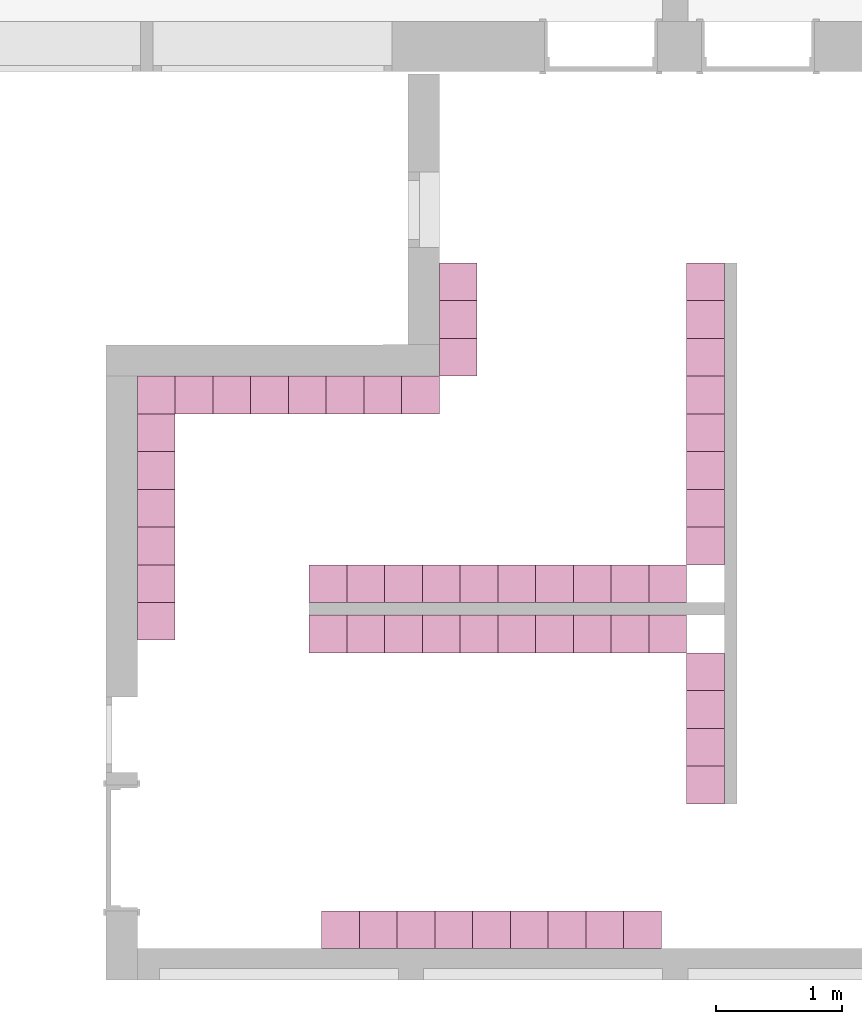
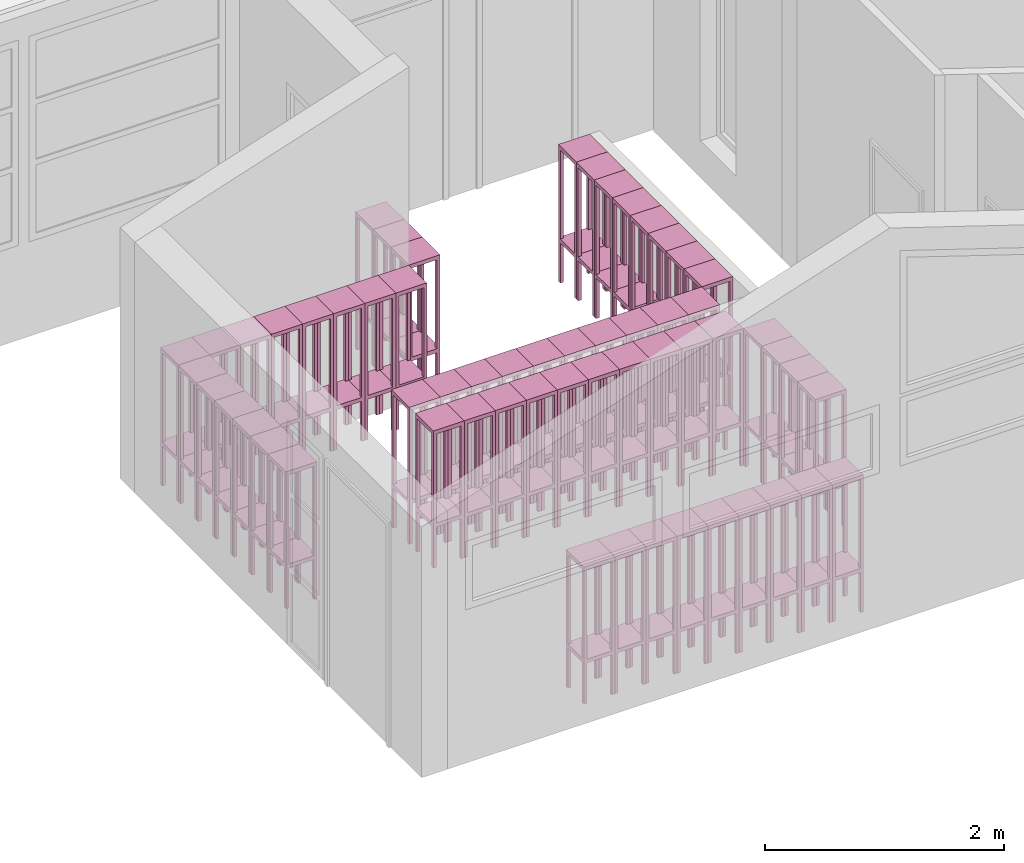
# One storey, part 24 of 25: 58 furnishings.
"""IFC2X3 building model written with IfcOpenShell, lengths in millimetres."""

from ifc_helpers import new_model, entity, si_unit, converted_unit, derived_unit, money_unit, direction, frame, origin_with_axes, place, context, subcontext, project, spatial, faceted_brep, source, transform, mapped, type_object, element, save


model = new_model("IFC2X3")

# Units and contexts
model_context = context("Model", 3, precision=0.01, world=origin_with_axes(), true_north=direction((0.0, 1.0)))
body_context = subcontext(model_context, "Body", "Model", "MODEL_VIEW")
ifc_project = project(units=[si_unit("LENGTHUNIT", "METRE", prefix="MILLI"), si_unit("AREAUNIT", "SQUARE_METRE"), si_unit("VOLUMEUNIT", "CUBIC_METRE"), converted_unit("PLANEANGLEUNIT", "DEGREE", entity("IfcPlaneAngleMeasure", 0.0174532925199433), si_unit("PLANEANGLEUNIT", "RADIAN"), dimensions=[0, 0, 0, 0, 0, 0, 0]), money_unit("USD"), converted_unit("TIMEUNIT", "Year", entity("IfcTimeMeasure", 31557600.0), si_unit("TIMEUNIT", "SECOND"), dimensions=[0, 0, 1, 0, 0, 0, 0]), si_unit("MASSUNIT", "GRAM", prefix="KILO"), si_unit("THERMODYNAMICTEMPERATUREUNIT", "DEGREE_CELSIUS"), si_unit("LUMINOUSINTENSITYUNIT", "LUMEN"), si_unit("ENERGYUNIT", "JOULE", prefix="MEGA"), derived_unit("THERMALCONDUCTANCEUNIT", [(si_unit("POWERUNIT", "WATT"), 1), (si_unit("LENGTHUNIT", "METRE"), -1), (si_unit("THERMODYNAMICTEMPERATUREUNIT", "KELVIN"), -1)]), derived_unit("SPECIFICHEATCAPACITYUNIT", [(si_unit("ENERGYUNIT", "JOULE"), 1), (si_unit("MASSUNIT", "GRAM", prefix="KILO"), -1), (si_unit("THERMODYNAMICTEMPERATUREUNIT", "KELVIN"), -1)]), derived_unit("MASSDENSITYUNIT", [(si_unit("MASSUNIT", "GRAM", prefix="KILO"), 1), (si_unit("VOLUMEUNIT", "CUBIC_METRE"), -1)])], contexts=[model_context])

# Site, building, storey
site_placement = place(None, origin_with_axes())
site = spatial("IfcSite", under=ifc_project, at=site_placement, Name="Site", CompositionType="ELEMENT")
building_placement = place(site_placement, origin_with_axes())
building = spatial("IfcBuilding", under=site, at=building_placement, Name="Building", CompositionType="ELEMENT")
storey_placement = place(building_placement, origin_with_axes())
storey = spatial("IfcBuildingStorey", under=building, at=storey_placement, Name="U ETG", CompositionType="ELEMENT", Elevation=0.0)

# Furnishings
furniture_type = type_object("IfcFurnitureType", Name="Bokhylle 02", AssemblyPlace="NOTDEFINED")
shared_shape = source(origin_with_axes(), body_context, "Body", "Brep", [
    faceted_brep([(30.0, 0.0, 0.0), (0.0, 0.0, 0.0), (0.0, 30.0, 0.0), (30.0, 30.0, 0.0), (30.0, 0.0, 1380.0), (0.0, 0.0, 1380.0), (0.0, 30.0, 1380.0), (30.0, 30.0, 1380.0)], [[[0, 1, 2, 3]], [[1, 0, 4, 5]], [[2, 1, 5, 6]], [[3, 2, 6, 7]], [[0, 3, 7, 4]], [[5, 4, 7, 6]]]),
    faceted_brep([(300.0000000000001, 0.0, 0.0), (270.0, 0.0, 0.0), (270.0, 30.0, 0.0), (300.0000000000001, 30.0, 0.0), (300.0000000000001, 0.0, 1380.0), (270.0, 0.0, 1380.0), (270.0, 30.0, 1380.0), (300.0000000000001, 30.0, 1380.0)], [[[0, 1, 2, 3]], [[1, 0, 4, 5]], [[2, 1, 5, 6]], [[3, 2, 6, 7]], [[0, 3, 7, 4]], [[5, 4, 7, 6]]]),
    faceted_brep([(30.0, 270.000704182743, 0.0), (0.0, 270.000704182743, 0.0), (0.0, 300.000704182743, 0.0), (30.0, 300.000704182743, 0.0), (30.0, 270.000704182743, 1380.0), (0.0, 270.000704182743, 1380.0), (0.0, 300.000704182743, 1380.0), (30.0, 300.000704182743, 1380.0)], [[[0, 1, 2, 3]], [[1, 0, 4, 5]], [[2, 1, 5, 6]], [[3, 2, 6, 7]], [[0, 3, 7, 4]], [[5, 4, 7, 6]]]),
    faceted_brep([(300.0000000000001, 270.000704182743, 0.0), (270.0, 270.000704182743, 0.0), (270.0, 300.000704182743, 0.0), (300.0000000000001, 300.000704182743, 0.0), (300.0000000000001, 270.000704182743, 1380.0), (270.0, 270.000704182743, 1380.0), (270.0, 300.000704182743, 1380.0), (300.0000000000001, 300.000704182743, 1380.0)], [[[0, 1, 2, 3]], [[1, 0, 4, 5]], [[2, 1, 5, 6]], [[3, 2, 6, 7]], [[0, 3, 7, 4]], [[5, 4, 7, 6]]]),
    faceted_brep([(30.0, 30.0, 410.0), (0.0, 30.0, 410.0), (0.0, 270.000704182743, 410.0), (30.0, 270.000704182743, 410.0), (30.0, 30.0, 430.0), (0.0, 30.0, 430.0), (0.0, 270.000704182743, 430.0), (30.0, 270.000704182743, 430.0)], [[[0, 1, 2, 3]], [[1, 0, 4, 5]], [[2, 1, 5, 6]], [[3, 2, 6, 7]], [[0, 3, 7, 4]], [[5, 4, 7, 6]]]),
    faceted_brep([(300.0000000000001, 30.0, 410.0), (270.0, 30.0, 410.0), (270.0, 270.000704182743, 410.0), (300.0000000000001, 270.000704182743, 410.0), (300.0000000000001, 30.0, 430.0), (270.0, 30.0, 430.0), (270.0, 270.000704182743, 430.0), (300.0000000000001, 270.000704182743, 430.0)], [[[0, 1, 2, 3]], [[1, 0, 4, 5]], [[2, 1, 5, 6]], [[3, 2, 6, 7]], [[0, 3, 7, 4]], [[5, 4, 7, 6]]]),
    faceted_brep([(270.0, 0.0, 410.0), (30.0, 0.0, 410.0), (30.0, 30.0, 410.0), (270.0, 30.0, 410.0), (270.0, 0.0, 430.0), (30.0, 0.0, 430.0), (30.0, 30.0, 430.0), (270.0, 30.0, 430.0)], [[[0, 1, 2, 3]], [[1, 0, 4, 5]], [[2, 1, 5, 6]], [[3, 2, 6, 7]], [[0, 3, 7, 4]], [[5, 4, 7, 6]]]),
    faceted_brep([(270.0, 270.000704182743, 410.0), (30.0, 270.000704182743, 410.0), (30.0, 300.000704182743, 410.0), (270.0, 300.000704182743, 410.0), (270.0, 270.000704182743, 430.0), (30.0, 270.000704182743, 430.0), (30.0, 300.000704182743, 430.0), (270.0, 300.000704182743, 430.0)], [[[0, 1, 2, 3]], [[1, 0, 4, 5]], [[2, 1, 5, 6]], [[3, 2, 6, 7]], [[0, 3, 7, 4]], [[5, 4, 7, 6]]]),
    faceted_brep([(30.0, 30.0, 1360.0), (0.0, 30.0, 1360.0), (0.0, 270.000704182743, 1360.0), (30.0, 270.000704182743, 1360.0), (30.0, 30.0, 1380.0), (0.0, 30.0, 1380.0), (0.0, 270.000704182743, 1380.0), (30.0, 270.000704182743, 1380.0)], [[[0, 1, 2, 3]], [[1, 0, 4, 5]], [[2, 1, 5, 6]], [[3, 2, 6, 7]], [[0, 3, 7, 4]], [[5, 4, 7, 6]]]),
    faceted_brep([(300.0000000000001, 30.0, 1360.0), (270.0, 30.0, 1360.0), (270.0, 270.000704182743, 1360.0), (300.0000000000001, 270.000704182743, 1360.0), (300.0000000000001, 30.0, 1380.0), (270.0, 30.0, 1380.0), (270.0, 270.000704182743, 1380.0), (300.0000000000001, 270.000704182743, 1380.0)], [[[0, 1, 2, 3]], [[1, 0, 4, 5]], [[2, 1, 5, 6]], [[3, 2, 6, 7]], [[0, 3, 7, 4]], [[5, 4, 7, 6]]]),
    faceted_brep([(270.0, 0.0, 1360.0), (30.0, 0.0, 1360.0), (30.0, 30.0, 1360.0), (270.0, 30.0, 1360.0), (270.0, 0.0, 1380.0), (30.0, 0.0, 1380.0), (30.0, 30.0, 1380.0), (270.0, 30.0, 1380.0)], [[[0, 1, 2, 3]], [[1, 0, 4, 5]], [[2, 1, 5, 6]], [[3, 2, 6, 7]], [[0, 3, 7, 4]], [[5, 4, 7, 6]]]),
    faceted_brep([(270.0, 270.000704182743, 1360.0), (30.0, 270.000704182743, 1360.0), (30.0, 300.000704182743, 1360.0), (270.0, 300.000704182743, 1360.0), (270.0, 270.000704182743, 1380.0), (30.0, 270.000704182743, 1380.0), (30.0, 300.000704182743, 1380.0), (270.0, 300.000704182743, 1380.0)], [[[0, 1, 2, 3]], [[1, 0, 4, 5]], [[2, 1, 5, 6]], [[3, 2, 6, 7]], [[0, 3, 7, 4]], [[5, 4, 7, 6]]]),
    faceted_brep([(300.0, 0.0, 1380.0), (0.0, 0.0, 1380.0), (0.0, 300.000704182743, 1380.0), (300.0, 300.000704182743, 1380.0), (300.0, 0.0, 1400.0), (0.0, 0.0, 1400.0), (0.0, 300.000704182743, 1400.0), (300.0, 300.000704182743, 1400.0)], [[[0, 1, 2, 3]], [[1, 0, 4, 5]], [[2, 1, 5, 6]], [[3, 2, 6, 7]], [[0, 3, 7, 4]], [[5, 4, 7, 6]]]),
    faceted_brep([(0.0, 30.0, 430.0), (30.0, 30.0, 430.0), (30.0, 30.0, 450.0), (0.0, 30.0, 450.0), (0.0, 270.000704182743, 430.0), (30.0, 270.000704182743, 430.0), (30.0, 300.000704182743, 430.0), (270.0, 300.000704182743, 430.0), (270.0, 270.000704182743, 430.0), (300.0, 270.000704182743, 430.0), (300.0, 30.0, 430.0), (270.0, 30.0, 430.0), (270.0, 0.0, 430.0), (30.0, 0.0, 430.0), (30.0, 0.0, 450.0), (270.0, 0.0, 450.0), (270.0, 30.0, 450.0), (300.0, 30.0, 450.0), (300.0, 270.000704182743, 450.0), (270.0, 270.000704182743, 450.0), (270.0, 300.000704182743, 450.0), (30.0, 300.000704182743, 450.0), (30.0, 270.000704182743, 450.0), (0.0, 270.000704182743, 450.0)], [[[0, 1, 2, 3]], [[0, 4, 5, 6, 7, 8, 9, 10, 11, 12, 13, 1]], [[1, 13, 14, 2]], [[3, 2, 14, 15, 16, 17, 18, 19, 20, 21, 22, 23]], [[4, 0, 3, 23]], [[5, 4, 23, 22]], [[6, 5, 22, 21]], [[7, 6, 21, 20]], [[8, 7, 20, 19]], [[9, 8, 19, 18]], [[10, 9, 18, 17]], [[11, 10, 17, 16]], [[12, 11, 16, 15]], [[13, 12, 15, 14]]]),
])
for number, where, z_axis, x_axis, name in (
    (1, (63539.65877553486, 3179.938116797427, 0.0), (0.0, 0.0, 1.0), (-4.237757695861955e-05, -0.9999999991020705, 0.0), "FU - 001"),
    (2, (66239.59730663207, 1579.823698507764, 0.0), (0.0, 0.0, 1.0), (-4.237757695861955e-05, -0.9999999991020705, 0.0), "FU - 001"),
    (3, (64439.66088727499, 3179.899976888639, 0.0), (0.0, 0.0, 1.0), (-4.237757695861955e-05, -0.9999999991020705, 0.0), "FU - 001"),
    (4, (64139.6601833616, 3179.912690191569, 0.0), (0.0, 0.0, 1.0), (-4.237757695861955e-05, -0.9999999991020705, 0.0), "FU - 001"),
    (5, (64275.17151249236, 4679.905540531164, 0.0), (0.0, 0.0, 1.0), (0.9999999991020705, -4.237757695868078e-05, 0.0), "FU - 001"),
    (6, (64275.18422579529, 4979.906244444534, 0.0), (0.0, 0.0, 1.0), (0.9999999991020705, -4.237757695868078e-05, 0.0), "FU - 001"),
    (7, (64739.66159118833, 3179.88726358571, 0.0), (0.0, 0.0, 1.0), (-4.237757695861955e-05, -0.9999999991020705, 0.0), "FU - 001"),
    (8, (61874.69805305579, 4380.007266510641, 0.0), (0.0, 0.0, 1.0), (-4.237757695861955e-05, -0.9999999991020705, 0.0), "FU - 001"),
    (9, (63839.65947944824, 3179.925403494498, 0.0), (0.0, 0.0, 1.0), (-4.237757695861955e-05, -0.9999999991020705, 0.0), "FU - 001"),
    (10, (64275.2096523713, 5579.906948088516, 0.0), (0.0, 0.0, 1.0), (-4.237757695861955e-05, -0.9999999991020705, 0.0), "FU - 001"),
    (11, (63339.54153313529, 429.9451852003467, 0.0), (0.0, 0.0, 1.0), (-4.237757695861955e-05, -0.9999999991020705, 0.0), "FU - 001"),
    (12, (63639.54223704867, 429.9324718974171, 0.0), (0.0, 0.0, 1.0), (-4.237757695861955e-05, -0.9999999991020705, 0.0), "FU - 001"),
    (13, (63939.54294096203, 429.9197585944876, 0.0), (0.0, 0.0, 1.0), (-4.237757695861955e-05, -0.9999999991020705, 0.0), "FU - 001"),
    (14, (64239.54364487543, 429.9070452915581, 0.0), (0.0, 0.0, 1.0), (-4.237757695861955e-05, -0.9999999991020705, 0.0), "FU - 001"),
    (15, (64539.54434878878, 429.8943319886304, 0.0), (0.0, 0.0, 1.0), (-4.237757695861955e-05, -0.9999999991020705, 0.0), "FU - 001"),
    (16, (64839.54505270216, 429.8816186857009, 0.0), (0.0, 0.0, 1.0), (-4.237757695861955e-05, -0.9999999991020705, 0.0), "FU - 001"),
    (17, (65139.54575661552, 429.8689053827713, 0.0), (0.0, 0.0, 1.0), (-4.237757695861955e-05, -0.9999999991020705, 0.0), "FU - 001"),
    (18, (65439.5464605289, 429.8561920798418, 0.0), (0.0, 0.0, 1.0), (-4.237757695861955e-05, -0.9999999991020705, 0.0), "FU - 001"),
    (19, (61874.63448669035, 2880.007267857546, 0.0), (0.0, 0.0, 1.0), (-4.237757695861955e-05, -0.9999999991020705, 0.0), "FU - 001"),
    (20, (61874.64719996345, 3180.007267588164, 0.0), (0.0, 0.0, 1.0), (-4.237757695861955e-05, -0.9999999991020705, 0.0), "FU - 001"),
    (21, (61874.65991323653, 3480.007267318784, 0.0), (0.0, 0.0, 1.0), (-4.237757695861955e-05, -0.9999999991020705, 0.0), "FU - 001"),
    (22, (61874.67262650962, 3780.007267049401, 0.0), (0.0, 0.0, 1.0), (-4.237757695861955e-05, -0.9999999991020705, 0.0), "FU - 001"),
    (23, (61874.6853397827, 4080.00726678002, 0.0), (0.0, 0.0, 1.0), (-4.237757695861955e-05, -0.9999999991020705, 0.0), "FU - 001"),
    (24, (61874.71076632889, 4680.007266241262, 0.0), (0.0, 0.0, 1.0), (-4.237757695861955e-05, -0.9999999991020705, 0.0), "FU - 001"),
    (25, (62174.71147024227, 4679.994552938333, 0.0), (0.0, 0.0, 1.0), (-4.237757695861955e-05, -0.9999999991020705, 0.0), "FU - 001"),
    (26, (62474.71217415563, 4679.981839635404, 0.0), (0.0, 0.0, 1.0), (-4.237757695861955e-05, -0.9999999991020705, 0.0), "FU - 001"),
    (27, (62774.71287806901, 4679.969126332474, 0.0), (0.0, 0.0, 1.0), (-4.237757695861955e-05, -0.9999999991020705, 0.0), "FU - 001"),
    (28, (63074.71358198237, 4679.956413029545, 0.0), (0.0, 0.0, 1.0), (-4.237757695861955e-05, -0.9999999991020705, 0.0), "FU - 001"),
    (29, (63374.71428589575, 4679.943699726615, 0.0), (0.0, 0.0, 1.0), (-4.237757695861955e-05, -0.9999999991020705, 0.0), "FU - 001"),
    (30, (63674.7149898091, 4679.930986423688, 0.0), (0.0, 0.0, 1.0), (-4.237757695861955e-05, -0.9999999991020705, 0.0), "FU - 001"),
    (31, (63974.71569372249, 4679.918273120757, 0.0), (0.0, 0.0, 1.0), (-4.237757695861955e-05, -0.9999999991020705, 0.0), "FU - 001"),
    (32, (65939.64745581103, 2779.836410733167, 0.0), (0.0, 0.0, 1.0), (-4.237757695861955e-05, -0.9999999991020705, 0.0), "FU - 001"),
    (33, (63239.6580716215, 3179.950830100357, 0.0), (0.0, 0.0, 1.0), (-4.237757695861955e-05, -0.9999999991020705, 0.0), "FU - 001"),
    (34, (66239.67782402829, 3479.823696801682, 0.0), (0.0, 0.0, 1.0), (-4.237757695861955e-05, -0.9999999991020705, 0.0), "FU - 001"),
    (35, (66239.62273317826, 2179.823697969, 0.0), (0.0, 0.0, 1.0), (-4.237757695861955e-05, -0.9999999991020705, 0.0), "FU - 001"),
    (36, (66239.70325057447, 4079.823696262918, 0.0), (0.0, 0.0, 1.0), (-4.237757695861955e-05, -0.9999999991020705, 0.0), "FU - 001"),
    (37, (66239.69053730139, 3779.8236965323, 0.0), (0.0, 0.0, 1.0), (-4.237757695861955e-05, -0.9999999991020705, 0.0), "FU - 001"),
    (38, (66239.71596384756, 4379.823695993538, 0.0), (0.0, 0.0, 1.0), (-4.237757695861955e-05, -0.9999999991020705, 0.0), "FU - 001"),
    (39, (66239.74139039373, 4979.823695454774, 0.0), (0.0, 0.0, 1.0), (-4.237757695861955e-05, -0.9999999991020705, 0.0), "FU - 001"),
    (40, (66239.72867712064, 4679.823695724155, 0.0), (0.0, 0.0, 1.0), (-4.237757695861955e-05, -0.9999999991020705, 0.0), "FU - 001"),
    (41, (66239.61001990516, 1879.823698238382, 0.0), (0.0, 0.0, 1.0), (-4.237757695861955e-05, -0.9999999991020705, 0.0), "FU - 001"),
    (42, (66239.75410366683, 5279.823695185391, 0.0), (0.0, 0.0, 1.0), (-4.237757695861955e-05, -0.9999999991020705, 0.0), "FU - 001"),
    (43, (66239.76681693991, 5579.823694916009, 0.0), (0.0, 0.0, 1.0), (-4.237757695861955e-05, -0.9999999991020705, 0.0), "FU - 001"),
    (44, (65739.54716444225, 429.8434787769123, 0.0), (0.0, 0.0, 1.0), (-4.237757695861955e-05, -0.9999999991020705, 0.0), "FU - 001"),
    (45, (65639.64675189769, 2779.849124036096, 0.0), (0.0, 0.0, 1.0), (-4.237757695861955e-05, -0.9999999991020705, 0.0), "FU - 001"),
    (46, (65339.6460479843, 2779.861837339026, 0.0), (0.0, 0.0, 1.0), (-4.237757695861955e-05, -0.9999999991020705, 0.0), "FU - 001"),
    (47, (64739.64464015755, 2779.887263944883, 0.0), (0.0, 0.0, 1.0), (-4.237757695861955e-05, -0.9999999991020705, 0.0), "FU - 001"),
    (48, (64439.6439362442, 2779.899977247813, 0.0), (0.0, 0.0, 1.0), (-4.237757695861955e-05, -0.9999999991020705, 0.0), "FU - 001"),
    (49, (65039.64534407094, 2779.874550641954, 0.0), (0.0, 0.0, 1.0), (-4.237757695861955e-05, -0.9999999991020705, 0.0), "FU - 001"),
    (50, (64139.64323233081, 2779.912690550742, 0.0), (0.0, 0.0, 1.0), (-4.237757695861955e-05, -0.9999999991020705, 0.0), "FU - 001"),
    (51, (63839.64252841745, 2779.925403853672, 0.0), (0.0, 0.0, 1.0), (-4.237757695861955e-05, -0.9999999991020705, 0.0), "FU - 001"),
    (52, (63539.64182450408, 2779.938117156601, 0.0), (0.0, 0.0, 1.0), (-4.237757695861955e-05, -0.9999999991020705, 0.0), "FU - 001"),
    (53, (65939.66440684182, 3179.836410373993, 0.0), (0.0, 0.0, 1.0), (-4.237757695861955e-05, -0.9999999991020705, 0.0), "FU - 001"),
    (54, (65639.66370292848, 3179.849123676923, 0.0), (0.0, 0.0, 1.0), (-4.237757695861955e-05, -0.9999999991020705, 0.0), "FU - 001"),
    (55, (63239.64112059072, 2779.950830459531, 0.0), (0.0, 0.0, 1.0), (-4.237757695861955e-05, -0.9999999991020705, 0.0), "FU - 001"),
    (56, (65339.66299901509, 3179.861836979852, 0.0), (0.0, 0.0, 1.0), (-4.237757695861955e-05, -0.9999999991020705, 0.0), "FU - 001"),
    (57, (65039.66229510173, 3179.87455028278, 0.0), (0.0, 0.0, 1.0), (-4.237757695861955e-05, -0.9999999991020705, 0.0), "FU - 001"),
    (58, (66239.63544645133, 2479.823697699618, 0.0), (0.0, 0.0, 1.0), (-4.237757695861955e-05, -0.9999999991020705, 0.0), "FU - 001"),
):
    element("IfcFurnishingElement", number, at=place(storey_placement, frame(where, z_axis=z_axis, x_axis=x_axis)), inside=storey, type_object=furniture_type, Name=name, context=body_context, shape_type="MappedRepresentation", body=[
        mapped(shared_shape, transform((0.0, 0.0, 0.0))),
    ])

save(model, "model.ifc")
